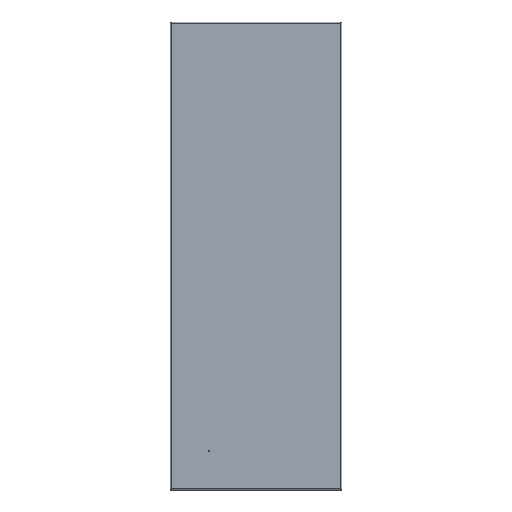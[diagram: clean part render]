
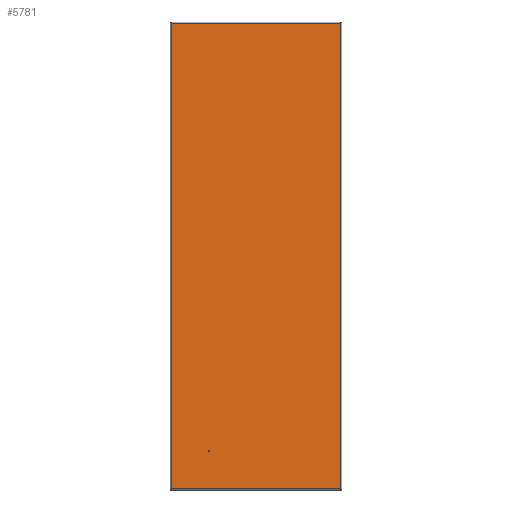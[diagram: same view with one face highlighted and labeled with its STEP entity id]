
A CAD part, front view. The second image highlights one B-rep face of the part: STEP entity #5781.
In plain terms, the highlighted planar face has unit normal (0, -1, 0).
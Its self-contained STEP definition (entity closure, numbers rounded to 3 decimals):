
#276 = DIRECTION ( 'NONE',  ( -1., 0., 0. ) ) ;
#346 = DIRECTION ( 'NONE',  ( 0., 0., -1. ) ) ;
#351 = ORIENTED_EDGE ( 'NONE', *, *, #5562, .T. ) ;
#394 = EDGE_CURVE ( 'NONE', #1153, #5793, #3674, .T. ) ;
#421 = VERTEX_POINT ( 'NONE', #4560 ) ;
#675 = CARTESIAN_POINT ( 'NONE',  ( 217.9, -15., -598. ) ) ;
#708 = LINE ( 'NONE', #675, #3638 ) ;
#739 = CARTESIAN_POINT ( 'NONE',  ( -217.9, -15., 597. ) ) ;
#786 = CARTESIAN_POINT ( 'NONE',  ( -217.9, -15., -597. ) ) ;
#855 = CARTESIAN_POINT ( 'NONE',  ( -120.4, -15., -499.5 ) ) ;
#1110 = DIRECTION ( 'NONE',  ( 0., 0., 1. ) ) ;
#1153 = VERTEX_POINT ( 'NONE', #3556 ) ;
#1475 = DIRECTION ( 'NONE',  ( 0., 1., 0. ) ) ;
#1618 = VERTEX_POINT ( 'NONE', #855 ) ;
#1647 = CIRCLE ( 'NONE', #2168, 0.5 ) ;
#2168 = AXIS2_PLACEMENT_3D ( 'NONE', #2266, #5419, #2739 ) ;
#2266 = CARTESIAN_POINT ( 'NONE',  ( -120.4, -15., -500. ) ) ;
#2382 = ORIENTED_EDGE ( 'NONE', *, *, #3496, .T. ) ;
#2404 = AXIS2_PLACEMENT_3D ( 'NONE', #4163, #1475, #4617 ) ;
#2422 = EDGE_LOOP ( 'NONE', ( #2731, #2382, #4057, #5313 ) ) ;
#2689 = DIRECTION ( 'NONE',  ( 0., 0., -1. ) ) ;
#2731 = ORIENTED_EDGE ( 'NONE', *, *, #394, .T. ) ;
#2739 = DIRECTION ( 'NONE',  ( 0., 0., 1. ) ) ;
#2772 = EDGE_CURVE ( 'NONE', #4022, #1153, #3704, .T. ) ;
#3015 = DIRECTION ( 'NONE',  ( 0., -1., 0. ) ) ;
#3496 = EDGE_CURVE ( 'NONE', #5793, #5382, #3850, .T. ) ;
#3556 = CARTESIAN_POINT ( 'NONE',  ( -217.9, -15., 597. ) ) ;
#3638 = VECTOR ( 'NONE', #1110, 1000. ) ;
#3674 = LINE ( 'NONE', #3928, #5482 ) ;
#3704 = LINE ( 'NONE', #739, #3921 ) ;
#3736 = EDGE_CURVE ( 'NONE', #1618, #421, #1647, .T. ) ;
#3755 = AXIS2_PLACEMENT_3D ( 'NONE', #4332, #3015, #346 ) ;
#3829 = FACE_BOUND ( 'NONE', #4039, .T. ) ;
#3850 = LINE ( 'NONE', #4336, #3912 ) ;
#3912 = VECTOR ( 'NONE', #5255, 1000. ) ;
#3921 = VECTOR ( 'NONE', #276, 1000. ) ;
#3928 = CARTESIAN_POINT ( 'NONE',  ( -217.9, -15., -598. ) ) ;
#3960 = ORIENTED_EDGE ( 'NONE', *, *, #3736, .T. ) ;
#4022 = VERTEX_POINT ( 'NONE', #5110 ) ;
#4039 = EDGE_LOOP ( 'NONE', ( #3960, #351 ) ) ;
#4057 = ORIENTED_EDGE ( 'NONE', *, *, #4073, .T. ) ;
#4073 = EDGE_CURVE ( 'NONE', #5382, #4022, #708, .T. ) ;
#4163 = CARTESIAN_POINT ( 'NONE',  ( -120.4, -15., -500. ) ) ;
#4243 = CIRCLE ( 'NONE', #2404, 0.5 ) ;
#4332 = CARTESIAN_POINT ( 'NONE',  ( -217.9, -15., -598. ) ) ;
#4336 = CARTESIAN_POINT ( 'NONE',  ( -217.9, -15., -597. ) ) ;
#4560 = CARTESIAN_POINT ( 'NONE',  ( -120.4, -15., -500.5 ) ) ;
#4617 = DIRECTION ( 'NONE',  ( 0., 0., 1. ) ) ;
#4783 = PLANE ( 'NONE',  #3755 ) ;
#4854 = CARTESIAN_POINT ( 'NONE',  ( 217.9, -15., -597. ) ) ;
#4883 = FACE_OUTER_BOUND ( 'NONE', #2422, .T. ) ;
#5110 = CARTESIAN_POINT ( 'NONE',  ( 217.9, -15., 597. ) ) ;
#5255 = DIRECTION ( 'NONE',  ( 1., 0., 0. ) ) ;
#5313 = ORIENTED_EDGE ( 'NONE', *, *, #2772, .T. ) ;
#5382 = VERTEX_POINT ( 'NONE', #4854 ) ;
#5419 = DIRECTION ( 'NONE',  ( 0., 1., 0. ) ) ;
#5482 = VECTOR ( 'NONE', #2689, 1000. ) ;
#5562 = EDGE_CURVE ( 'NONE', #421, #1618, #4243, .T. ) ;
#5781 = ADVANCED_FACE ( 'NONE', ( #3829, #4883 ), #4783, .T. ) ;
#5793 = VERTEX_POINT ( 'NONE', #786 ) ;
